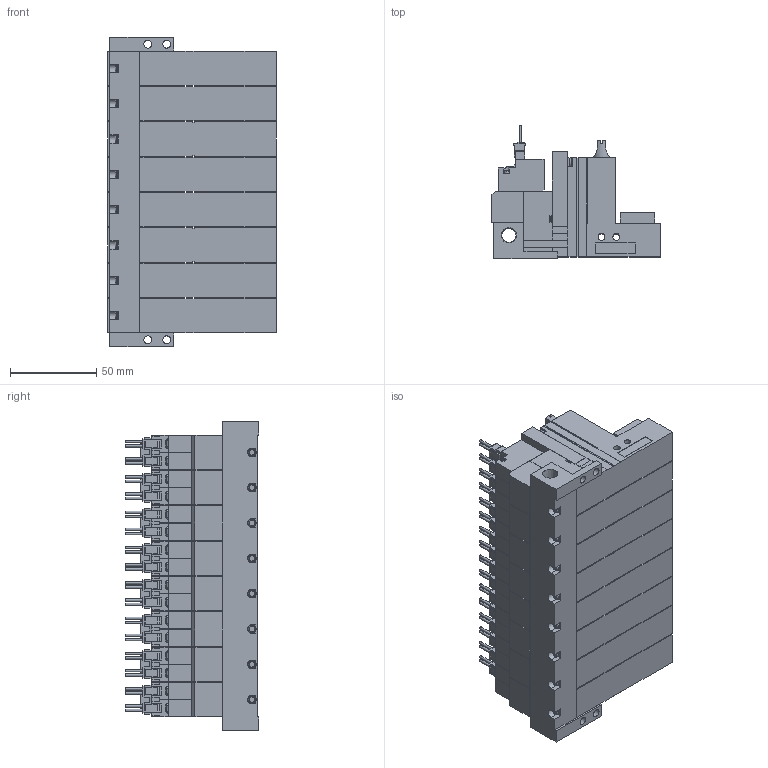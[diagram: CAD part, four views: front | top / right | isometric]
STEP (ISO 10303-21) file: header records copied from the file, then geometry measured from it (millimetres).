
FILE_DESCRIPTION(('STEP AP203'),'1');
FILE_NAME('ZLC5BLR808.stp','2025-02-25T05:01:51',(' '),(' '),'Spatial InterOp 3D',' ',' ');
FILE_SCHEMA(('CONFIG_CONTROL_DESIGN'));
Length unit declared in the file: millimetre
Products named in the file (5): BMC22M※※※※ZLC5BLR808; Solenoid valve B; Pressure sensor ZLC; Unit LC; Base MR80R
Assembly tree (25 placements, depth 2):
  BMC22M※※※※ZLC5BLR808
    Solenoid valve B  x8
    Pressure sensor ZLC  x8
    Unit LC  x8
    Base MR80R
Bounding box: 97.6 x 77.45 x 179.5 mm (x, y, z)
Volume: 710215.6 mm3; surface area: 187651.5 mm2
Topology: 25 solids, 25 shells, 2885 faces, 7843 edges, 5152 vertices
Faces by surface type: plane 2494, cylinder 293, cone 58, torus 40
Full cylindrical faces by diameter (mm): 1.4 x32, 2.5 x8, 3 x32, 3.5 x32, 3.6 x8, 4 x16, 4.134 x8, 4.5 x4, 5.2 x8, 6 x8, 6.6 x8, 8.279 x1
Entity records: 15316 total; most frequent: CARTESIAN_POINT 3021, DIRECTION 2434, ORIENTED_EDGE 2340, EDGE_CURVE 1170, LINE 926, VECTOR 926, VERTEX_POINT 825, AXIS2_PLACEMENT_3D 754
